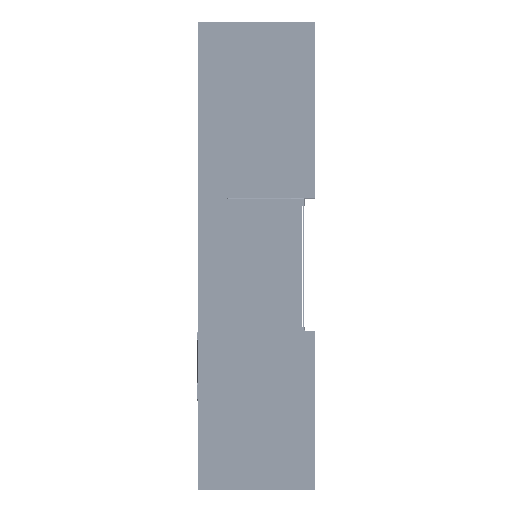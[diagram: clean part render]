
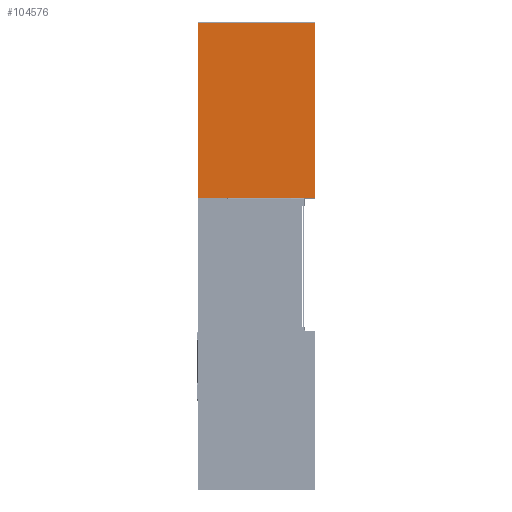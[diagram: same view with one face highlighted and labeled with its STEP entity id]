
A CAD part, top view. The second image highlights one B-rep face of the part: STEP entity #104576.
In plain terms, the highlighted planar face has unit normal (0, 0, 1) as drawn and (0, 0, -1) by its records, which use the part's own axes.
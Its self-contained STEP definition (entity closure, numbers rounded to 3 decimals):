
#30641 = DIRECTION ( 'NONE',  ( 0., -1., 0. ) ) ;
#54251 = EDGE_CURVE ( 'NONE', #164096, #131885, #485713, .T. ) ;
#81353 = EDGE_CURVE ( 'NONE', #197002, #164096, #411724, .T. ) ;
#89826 = FACE_OUTER_BOUND ( 'NONE', #486841, .T. ) ;
#95018 = CARTESIAN_POINT ( 'NONE',  ( 0., 0., -12. ) ) ;
#98017 = ORIENTED_EDGE ( 'NONE', *, *, #197527, .F. ) ;
#104576 = ADVANCED_FACE ( 'NONE', ( #89826 ), #250747, .F. ) ;
#123966 = CARTESIAN_POINT ( 'NONE',  ( 200., 300., -12. ) ) ;
#131885 = VERTEX_POINT ( 'NONE', #123966 ) ;
#133948 = ORIENTED_EDGE ( 'NONE', *, *, #54251, .F. ) ;
#142919 = VECTOR ( 'NONE', #258661, 1000. ) ;
#156832 = AXIS2_PLACEMENT_3D ( 'NONE', #95018, #300832, #335166 ) ;
#160048 = CARTESIAN_POINT ( 'NONE',  ( 200., -300., -12. ) ) ;
#160240 = VECTOR ( 'NONE', #377430, 1000. ) ;
#164096 = VERTEX_POINT ( 'NONE', #160048 ) ;
#186333 = LINE ( 'NONE', #233793, #352792 ) ;
#191800 = VERTEX_POINT ( 'NONE', #390736 ) ;
#197002 = VERTEX_POINT ( 'NONE', #396881 ) ;
#197527 = EDGE_CURVE ( 'NONE', #131885, #191800, #295649, .T. ) ;
#216556 = CARTESIAN_POINT ( 'NONE',  ( -200., 300., -12. ) ) ;
#233793 = CARTESIAN_POINT ( 'NONE',  ( -200., 300., -12. ) ) ;
#250747 = PLANE ( 'NONE',  #156832 ) ;
#253796 = VECTOR ( 'NONE', #445927, 1000. ) ;
#258661 = DIRECTION ( 'NONE',  ( -1., 0., 0. ) ) ;
#284915 = CARTESIAN_POINT ( 'NONE',  ( 200., 300., -12. ) ) ;
#287204 = ORIENTED_EDGE ( 'NONE', *, *, #81353, .F. ) ;
#290974 = EDGE_CURVE ( 'NONE', #191800, #197002, #186333, .T. ) ;
#295649 = LINE ( 'NONE', #216556, #142919 ) ;
#300832 = DIRECTION ( 'NONE',  ( 0., 0., 1. ) ) ;
#335166 = DIRECTION ( 'NONE',  ( 1., 0., 0. ) ) ;
#352792 = VECTOR ( 'NONE', #30641, 1000. ) ;
#374362 = ORIENTED_EDGE ( 'NONE', *, *, #290974, .F. ) ;
#377430 = DIRECTION ( 'NONE',  ( 1., 0., 0. ) ) ;
#390736 = CARTESIAN_POINT ( 'NONE',  ( -200., 300., -12. ) ) ;
#396881 = CARTESIAN_POINT ( 'NONE',  ( -200., -300., -12. ) ) ;
#411724 = LINE ( 'NONE', #451347, #160240 ) ;
#445927 = DIRECTION ( 'NONE',  ( 0., 1., 0. ) ) ;
#451347 = CARTESIAN_POINT ( 'NONE',  ( -200., -300., -12. ) ) ;
#485713 = LINE ( 'NONE', #284915, #253796 ) ;
#486841 = EDGE_LOOP ( 'NONE', ( #133948, #287204, #374362, #98017 ) ) ;
